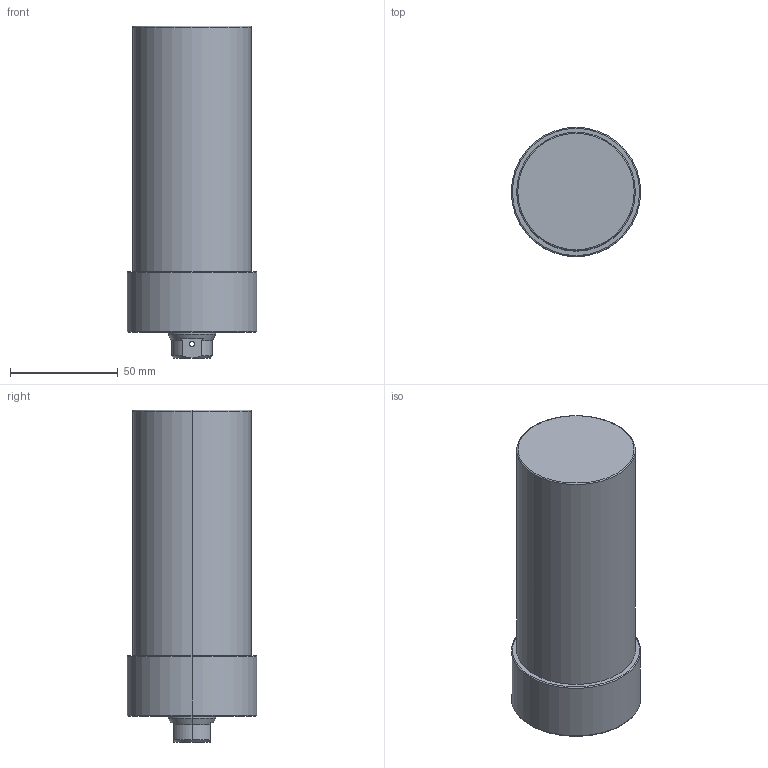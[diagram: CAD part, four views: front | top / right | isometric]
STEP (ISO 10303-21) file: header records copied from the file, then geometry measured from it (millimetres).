
FILE_DESCRIPTION (( 'STEP AP203' ), '1' );
FILE_NAME ('CLLU055-CB-085.STEP', '2017-05-15T08:18:13', ( '' ), ( '' ), 'SwSTEP 2.0', 'SolidWorks 2015', '' );
FILE_SCHEMA (( 'CONFIG_CONTROL_DESIGN' ));
Length unit declared in the file: millimetre
Products named in the file (1): CLLU055-CB-085
Bounding box: 60 x 60 x 154 mm (x, y, z)
Volume: 350303.4 mm3; surface area: 33068.9 mm2
Topology: 1 solids, 1 shells, 68 faces, 155 edges, 88 vertices
Faces by surface type: cylinder 27, cone 25, plane 10, torus 6
Entity records: 2021 total; most frequent: CARTESIAN_POINT 422, DIRECTION 350, ORIENTED_EDGE 290, AXIS2_PLACEMENT_3D 148, EDGE_CURVE 145, VERTEX_POINT 88, EDGE_LOOP 81, CIRCLE 79
